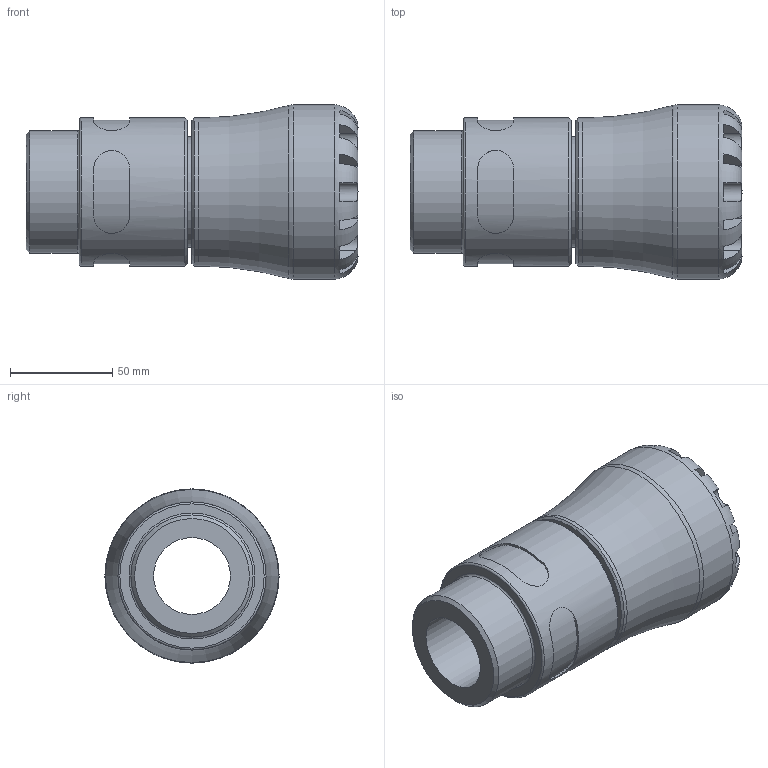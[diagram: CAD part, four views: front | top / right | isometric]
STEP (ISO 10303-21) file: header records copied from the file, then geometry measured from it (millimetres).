
FILE_DESCRIPTION(/* description */ ('PLASSON MALE ADAPTOR 50X2" SERIES 1'),/* implementation_level */ '2;1');
FILE_NAME(/* name */ 'C:\Dropbox\KIMPROJECTS-Inventor 2019\99-16-3568-Processing\S1\10N20\stp\10N200050020_10N2G0050020.stp',/* time_stamp */ '2024-03-12T13:20:04+01:00',/* author */ ('KIM'),/* organization */ (''),/* preprocessor_version */ 'ST-DEVELOPER v17.2',/* originating_system */ 'Autodesk Inventor 2019',/* authorisation */ '');
FILE_SCHEMA (('AUTOMOTIVE_DESIGN { 1 0 10303 214 3 1 1 }'));
Length unit declared in the file: millimetre
Products named in the file (1): 10N200050020_10N2G0050020
Bounding box: 162 x 85 x 85 mm (x, y, z)
Volume: 437458.6 mm3; surface area: 71762 mm2
Topology: 1 solids, 1 shells, 106 faces, 279 edges, 182 vertices
Faces by surface type: plane 62, cylinder 35, torus 5, cone 4
Full cylindrical faces by diameter (mm): 37.5 x1, 50 x1, 54 x1, 59.614 x1, 72.25 x2, 85 x1
Entity records: 4222 total; most frequent: CARTESIAN_POINT 1488, ORIENTED_EDGE 558, DIRECTION 552, EDGE_CURVE 279, AXIS2_PLACEMENT_3D 230, VERTEX_POINT 182, CIRCLE 123, EDGE_LOOP 115
